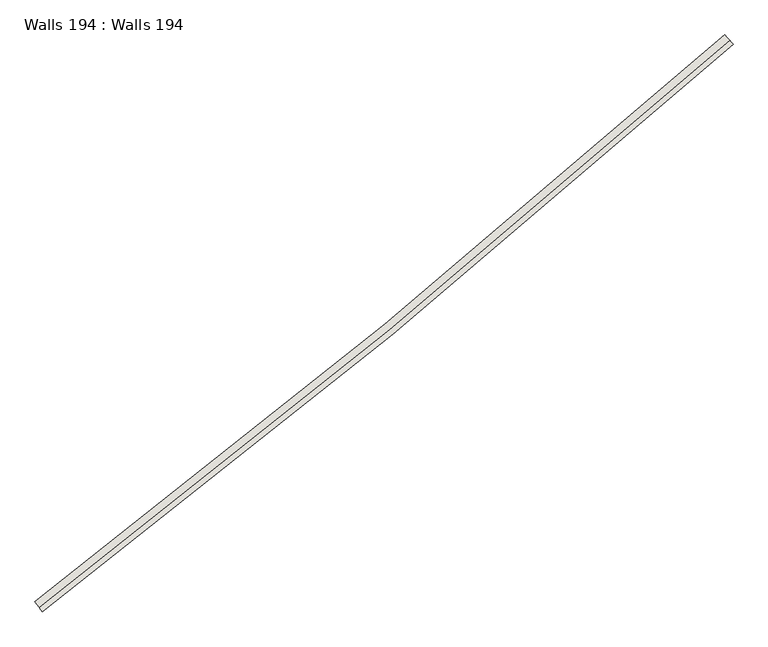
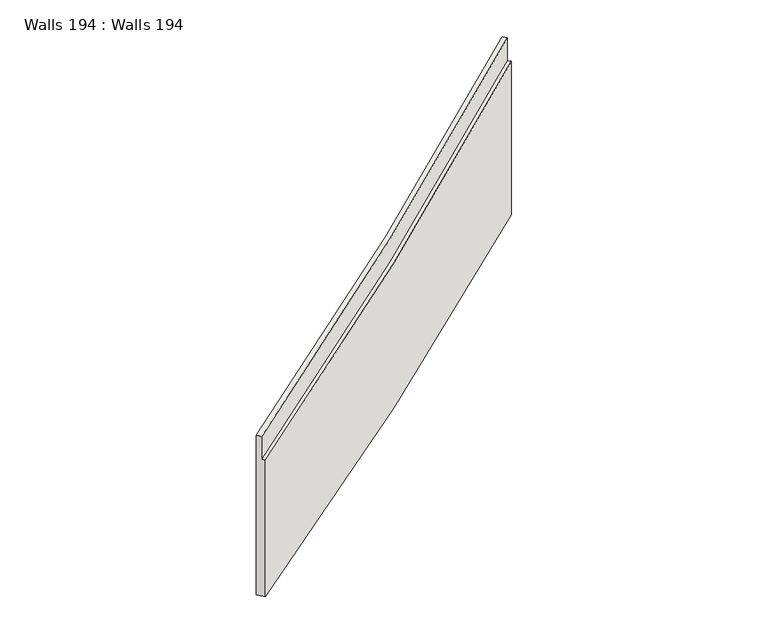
"""IFC4 building model written with IfcOpenShell, lengths in millimetres: wall geometry, Walls 194 : Walls 194."""

from ifc_helpers import new_model, si_unit, frame, origin, place, context, project, spatial, source, transform, mapped, element, save
from ifc_brep_helpers import plane_surface, spline_curve, spline_surface, advanced_brep


def walls_194_walls_194_e6c6337b(model_context):
    return source(origin(), model_context, "Body", "AdvancedBrep", [
        advanced_brep(
        [(341271.6194041, 215062.2272338, 643870.0), (341483.9948573, 214784.0246694, 643870.0), (341483.9948573, 214784.0246694, 649840.0), (341392.9768059, 214903.2543399, 649840.0), (341392.9768059, 214903.2543399, 650840.0), (341271.6194041, 215062.2272338, 650840.0), (360584.7902458, 230928.401766, 644170.0), (360584.7902458, 230928.401766, 651880.0), (360717.1837453, 230778.4952575, 651880.0), (360717.1837453, 230778.4952575, 650880.0), (360816.4788699, 230666.0653761, 650880.0), (360816.4788699, 230666.0653761, 644170.0)],
        [
            (0, 1),
            (1, 2),
            (2, 3),
            (3, 4),
            (4, 5),
            (5, 0),
            (6, 7),
            (7, 8),
            (8, 9),
            (9, 10),
            (10, 11),
            (11, 6),
            (9, 3, spline_curve(3, [(360717.1837453, 230778.4952575, 650880.0), (357592.347513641, 228018.721794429, 650706.666667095), (354418.224424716, 225314.754937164, 650533.333332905), (347975.452650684, 220021.882922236, 650186.666667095), (344706.803963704, 217432.977766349, 650013.333332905), (341392.9768059, 214903.2543399, 649840.0)], [4, 2, 4], [0.0, 41.07702690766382, 82.15405381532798])),
            (2, 10, spline_curve(3, [(341483.9948573, 214784.0246694, 649840.0), (344799.241415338, 217314.831643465, 650013.333332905), (348069.290151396, 219904.845697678, 650186.666667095), (354514.821537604, 225199.984789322, 650533.333332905), (357690.304187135, 227905.109828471, 650706.666667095), (360816.4788699, 230666.0653761, 650880.0)], [4, 2, 4], [0.0, 41.07702690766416, 82.15405381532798])),
            (6, 0, spline_curve(3, [(360584.7902458, 230928.401766, 644170.0), (357461.738614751, 228170.204415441, 644119.999999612), (354289.428275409, 225467.781799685, 644070.000000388), (347850.335981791, 220177.932556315, 643969.999999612), (344583.554027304, 217590.505929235, 643920.000000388), (341271.6194041, 215062.2272338, 643870.0)], [4, 2, 4], [0.0, 41.02408733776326, 82.04817467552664])),
            (5, 7, spline_curve(3, [(341271.6194041, 215062.2272338, 650840.0), (344583.554027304, 217590.505929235, 651013.333332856), (347850.335981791, 220177.932556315, 651186.666667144), (354289.428275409, 225467.781799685, 651533.333332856), (357461.738614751, 228170.204415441, 651706.666667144), (360584.7902458, 230928.401766, 651880.0)], [4, 2, 4], [0.0, 41.024087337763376, 82.04817467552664])),
            (11, 1, spline_curve(3, [(360816.4788699, 230666.0653761, 644170.0), (357690.30418728, 227905.109829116, 644120.000000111), (354514.821536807, 225199.984789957, 644069.999999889), (348069.290152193, 219904.845697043, 643970.000000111), (344799.241415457, 217314.8316439, 643919.999999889), (341483.9948573, 214784.0246694, 643870.0)], [4, 2, 4], [0.0, 41.03281781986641, 82.06563563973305])),
            (8, 4, spline_curve(3, [(360717.1837453, 230778.4952575, 651880.0), (357592.347512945, 228018.721794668, 651706.666666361), (354418.224424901, 225314.754936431, 651533.333333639), (347975.452650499, 220021.882922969, 651186.666666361), (344706.803964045, 217432.977766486, 651013.333333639), (341392.9768059, 214903.2543399, 650840.0)], [4, 2, 4], [0.0, 41.06824677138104, 82.13649354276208])),
        ],
        [
            plane_surface(frame((341382.8636891, 214916.502081, 648183.3333333), z_axis=(-0.7948644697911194, -0.6067870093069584, 0.0), x_axis=(0.0, 0.0, 1.0))),
            plane_surface(frame((360706.1509536, 230790.9874665, 648976.6666667), z_axis=(0.7495325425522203, 0.661967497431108, 0.0), x_axis=(0.661967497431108, -0.7495325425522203, 0.0))),
            spline_surface(3, 3, [[(360816.4788699, 230666.0653761, 650880.0), (357690.304186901, 227905.109828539, 650706.666666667), (354514.821537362, 225199.984789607, 650533.333333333), (348069.290151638, 219904.845697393, 650186.666666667), (344799.241415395, 217314.831644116, 650013.333333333), (341483.9948573, 214784.0246694, 649840.0)], [(360799.929682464, 230684.803689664, 650880.0), (357673.978074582, 227924.045156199, 650706.666666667), (354498.722018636, 225219.113147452, 650533.333333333), (348053.650568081, 219924.351901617, 650186.666666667), (344783.835173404, 217334.522664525, 650013.333333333), (341468.825182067, 214803.896281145, 649840.0)], [(360783.380495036, 230703.542003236, 650880.0), (357657.65196227, 227942.980483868, 650706.666666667), (354482.622499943, 225238.241505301, 650533.333333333), (348038.01098454, 219943.85810583, 650186.666666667), (344768.42893141, 217354.2136849, 650013.333333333), (341453.655506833, 214823.767892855, 649840.0)], [(360750.282120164, 230741.018630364, 650880.0), (357624.999737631, 227980.851139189, 650706.666666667), (354450.42346249, 225276.49822099, 650533.333333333), (348006.731817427, 219982.870514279, 650186.666666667), (344737.616447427, 217393.595725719, 650013.333333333), (341423.316156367, 214863.511116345, 649840.0)], [(360733.732932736, 230759.756943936, 650880.0), (357608.673625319, 227999.786466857, 650706.666666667), (354434.323943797, 225295.626578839, 650533.333333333), (347991.092233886, 220002.376718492, 650186.666666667), (344722.210205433, 217413.286746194, 650013.333333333), (341408.146481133, 214883.382728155, 649840.0)], [(360717.1837453, 230778.4952575, 650880.0), (357592.347513, 228018.721794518, 650706.666666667), (354418.224425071, 225314.754936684, 650533.333333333), (347975.452650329, 220021.882922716, 650186.666666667), (344706.803963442, 217432.977766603, 650013.333333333), (341392.9768059, 214903.2543399, 649840.0)]], [4, 2, 4], [4, 2, 4], [0.0, 0.2460629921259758, 0.4921259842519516], [0.0, 41.07702690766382, 82.15405381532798]),
            spline_surface(3, 3, [[(360584.7902458, 230928.401766, 651880.0), (357461.738614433, 228170.204415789, 651706.666666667), (354289.428275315, 225467.781799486, 651533.333333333), (347850.335981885, 220177.932556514, 651186.666666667), (344583.554027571, 217590.50592982, 651013.333333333), (341271.6194041, 215062.2272338, 650840.0)], [(360584.7902458, 230928.401766, 650595.0), (357461.738614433, 228170.204415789, 650442.222222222), (354289.428275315, 225467.781799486, 650289.444444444), (347850.335981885, 220177.932556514, 649983.888888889), (344583.554027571, 217590.50592982, 649831.111111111), (341271.6194041, 215062.2272338, 649678.333333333)], [(360584.7902458, 230928.401766, 649310.0), (357461.738614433, 228170.204415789, 649177.777777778), (354289.428275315, 225467.781799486, 649045.555555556), (347850.335981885, 220177.932556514, 648781.111111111), (344583.554027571, 217590.50592982, 648648.888888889), (341271.6194041, 215062.2272338, 648516.666666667)], [(360584.7902458, 230928.401766, 646740.0), (357461.738614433, 228170.204415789, 646648.888888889), (354289.428275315, 225467.781799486, 646557.777777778), (347850.335981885, 220177.932556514, 646375.555555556), (344583.554027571, 217590.50592982, 646284.444444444), (341271.6194041, 215062.2272338, 646193.333333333)], [(360584.7902458, 230928.401766, 645455.0), (357461.738614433, 228170.204415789, 645384.444444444), (354289.428275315, 225467.781799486, 645313.888888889), (347850.335981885, 220177.932556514, 645172.777777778), (344583.554027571, 217590.50592982, 645102.222222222), (341271.6194041, 215062.2272338, 645031.666666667)], [(360584.7902458, 230928.401766, 644170.0), (357461.738614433, 228170.204415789, 644120.0), (354289.428275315, 225467.781799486, 644070.0), (347850.335981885, 220177.932556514, 643970.0), (344583.554027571, 217590.50592982, 643920.0), (341271.6194041, 215062.2272338, 643870.0)]], [4, 2, 4], [4, 2, 4], [0.0, 12.040682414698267, 24.081364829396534], [0.0, 41.02408733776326, 82.04817467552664]),
            spline_surface(3, 3, [[(360584.7902458, 230928.401766, 644170.0), (357461.738614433, 228170.204415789, 644120.0), (354289.428275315, 225467.781799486, 644070.0), (347850.335981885, 220177.932556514, 643970.0), (344583.554027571, 217590.50592982, 643920.0), (341271.6194041, 215062.2272338, 643870.0)], [(360623.405016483, 230884.679034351, 644170.0), (357499.832876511, 228126.021984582, 644120.0), (354326.993819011, 225423.148964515, 644070.0), (347886.828343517, 220132.418079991, 643970.0), (344619.501925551, 217544.560215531, 643920.0), (341307.015312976, 215015.860139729, 643870.0)], [(360662.019787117, 230840.956302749, 644170.0), (357537.927138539, 228081.839553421, 644120.0), (354364.559362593, 225378.516129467, 644070.0), (347923.320705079, 220086.903603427, 643970.0), (344655.449823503, 217498.614501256, 643920.0), (341342.411221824, 214969.493045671, 643870.0)], [(360739.249328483, 230753.510839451, 644170.0), (357614.115662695, 227993.474691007, 644120.0), (354439.690449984, 225289.250459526, 644070.0), (347996.305428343, 219995.87465038, 643970.0), (344727.345619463, 217406.72307268, 643920.0), (341413.203039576, 214876.758857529, 643870.0)], [(360777.864099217, 230709.788107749, 644170.0), (357652.209924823, 227949.292259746, 644120.0), (354477.255993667, 225244.617624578, 644070.0), (348032.797790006, 219950.360173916, 643970.0), (344763.293517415, 217360.777358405, 643920.0), (341448.598948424, 214830.391763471, 643870.0)], [(360816.4788699, 230666.0653761, 644170.0), (357690.304186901, 227905.109828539, 644120.0), (354514.821537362, 225199.984789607, 644070.0), (348069.290151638, 219904.845697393, 643970.0), (344799.241415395, 217314.831644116, 643920.0), (341483.9948573, 214784.0246694, 643870.0)]], [4, 2, 4], [4, 2, 4], [0.0, 0.574146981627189, 1.148293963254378], [0.0, 41.03281781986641, 82.06563563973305]),
            spline_surface(3, 3, [[(360816.4788699, 230666.0653761, 644170.0), (357690.304186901, 227905.109828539, 644120.0), (354514.821537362, 225199.984789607, 644070.0), (348069.290151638, 219904.845697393, 643970.0), (344799.241415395, 217314.831644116, 643920.0), (341483.9948573, 214784.0246694, 643870.0)], [(360816.4788699, 230666.0653761, 645288.333333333), (357690.304186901, 227905.109828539, 645217.777777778), (354514.821537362, 225199.984789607, 645147.222222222), (348069.290151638, 219904.845697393, 645006.111111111), (344799.241415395, 217314.831644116, 644935.555555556), (341483.9948573, 214784.0246694, 644865.0)], [(360816.4788699, 230666.0653761, 646406.666666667), (357690.304186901, 227905.109828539, 646315.555555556), (354514.821537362, 225199.984789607, 646224.444444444), (348069.290151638, 219904.845697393, 646042.222222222), (344799.241415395, 217314.831644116, 645951.111111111), (341483.9948573, 214784.0246694, 645860.0)], [(360816.4788699, 230666.0653761, 648643.333333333), (357690.304186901, 227905.109828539, 648511.111111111), (354514.821537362, 225199.984789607, 648378.888888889), (348069.290151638, 219904.845697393, 648114.444444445), (344799.241415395, 217314.831644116, 647982.222222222), (341483.9948573, 214784.0246694, 647850.0)], [(360816.4788699, 230666.0653761, 649761.666666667), (357690.304186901, 227905.109828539, 649608.888888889), (354514.821537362, 225199.984789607, 649456.111111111), (348069.290151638, 219904.845697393, 649150.555555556), (344799.241415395, 217314.831644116, 648997.777777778), (341483.9948573, 214784.0246694, 648845.0)], [(360816.4788699, 230666.0653761, 650880.0), (357690.304186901, 227905.109828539, 650706.666666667), (354514.821537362, 225199.984789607, 650533.333333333), (348069.290151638, 219904.845697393, 650186.666666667), (344799.241415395, 217314.831644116, 650013.333333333), (341483.9948573, 214784.0246694, 649840.0)]], [4, 2, 4], [4, 2, 4], [0.0, 10.400262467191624, 20.800524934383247], [0.0, 41.0650819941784, 82.13016398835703]),
            spline_surface(3, 3, [[(360717.1837453, 230778.4952575, 650880.0), (357592.347513, 228018.721794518, 650706.666666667), (354418.224425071, 225314.754936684, 650533.333333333), (347975.452650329, 220021.882922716, 650186.666666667), (344706.803963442, 217432.977766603, 650013.333333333), (341392.9768059, 214903.2543399, 649840.0)], [(360717.1837453, 230778.4952575, 651046.666666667), (357592.347513, 228018.721794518, 650873.333333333), (354418.224425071, 225314.754936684, 650700.0), (347975.452650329, 220021.882922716, 650353.333333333), (344706.803963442, 217432.977766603, 650180.0), (341392.9768059, 214903.2543399, 650006.666666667)], [(360717.1837453, 230778.4952575, 651213.333333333), (357592.347513, 228018.721794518, 651040.0), (354418.224425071, 225314.754936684, 650866.666666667), (347975.452650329, 220021.882922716, 650520.0), (344706.803963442, 217432.977766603, 650346.666666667), (341392.9768059, 214903.2543399, 650173.333333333)], [(360717.1837453, 230778.4952575, 651546.666666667), (357592.347513, 228018.721794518, 651373.333333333), (354418.224425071, 225314.754936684, 651200.0), (347975.452650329, 220021.882922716, 650853.333333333), (344706.803963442, 217432.977766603, 650680.0), (341392.9768059, 214903.2543399, 650506.666666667)], [(360717.1837453, 230778.4952575, 651713.333333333), (357592.347513, 228018.721794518, 651540.0), (354418.224425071, 225314.754936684, 651366.666666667), (347975.452650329, 220021.882922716, 651020.0), (344706.803963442, 217432.977766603, 650846.666666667), (341392.9768059, 214903.2543399, 650673.333333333)], [(360717.1837453, 230778.4952575, 651880.0), (357592.347513, 228018.721794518, 651706.666666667), (354418.224425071, 225314.754936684, 651533.333333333), (347975.452650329, 220021.882922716, 651186.666666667), (344706.803963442, 217432.977766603, 651013.333333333), (341392.9768059, 214903.2543399, 650840.0)]], [4, 2, 4], [4, 2, 4], [0.0, 1.6404199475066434, 3.280839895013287], [0.0, 41.06824677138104, 82.13649354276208]),
            spline_surface(3, 3, [[(360717.1837453, 230778.4952575, 651880.0), (357592.347513, 228018.721794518, 651706.666666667), (354418.224425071, 225314.754936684, 651533.333333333), (347975.452650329, 220021.882922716, 651186.666666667), (344706.803963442, 217432.977766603, 651013.333333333), (341392.9768059, 214903.2543399, 650840.0)], [(360695.118162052, 230803.479675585, 651880.0), (357570.579363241, 228043.968898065, 651706.666666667), (354396.758400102, 225340.25941381, 651533.333333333), (347954.599872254, 220047.891195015, 651186.666666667), (344686.262307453, 217459.232460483, 651013.333333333), (341372.750572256, 214929.749822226, 650840.0)], [(360673.052578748, 230828.464093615, 651880.0), (357548.811213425, 228069.216001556, 651706.666666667), (354375.292375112, 225365.763890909, 651533.333333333), (347933.747094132, 220073.899467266, 651186.666666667), (344665.720651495, 217485.487154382, 651013.333333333), (341352.524338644, 214956.245304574, 650840.0)], [(360628.921412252, 230878.432929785, 651880.0), (357505.274913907, 228119.710208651, 651706.666666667), (354332.360325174, 225416.772845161, 651533.333333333), (347892.041537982, 220125.916011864, 651186.666666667), (344624.637339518, 217537.996542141, 651013.333333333), (341312.071871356, 215009.236269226, 650840.0)], [(360606.855829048, 230903.417347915, 651880.0), (357483.506764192, 228144.957312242, 651706.666666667), (354310.894300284, 225442.277322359, 651533.333333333), (347871.18875996, 220151.924284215, 651186.666666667), (344604.09568356, 217564.251235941, 651013.333333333), (341291.845637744, 215035.731751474, 650840.0)], [(360584.7902458, 230928.401766, 651880.0), (357461.738614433, 228170.204415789, 651706.666666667), (354289.428275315, 225467.781799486, 651533.333333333), (347850.335981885, 220177.932556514, 651186.666666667), (344583.554027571, 217590.50592982, 651013.333333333), (341271.6194041, 215062.2272338, 650840.0)]], [4, 2, 4], [4, 2, 4], [0.0, 0.328083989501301, 0.656167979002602], [0.0, 41.056539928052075, 82.11307985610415]),
        ],
        [
            (0, [[1, 2, 3, 4, 5, 6]]),
            (1, [[7, 8, 9, 10, 11, 12]]),
            (2, [[-10, 13, -3, 14]]),
            (3, [[-7, 15, -6, 16]]),
            (4, [[-12, 17, -1, -15]]),
            (5, [[-11, -14, -2, -17]]),
            (6, [[-9, 18, -4, -13]]),
            (7, [[-8, -16, -5, -18]]),
        ],
    ),
    ])


if __name__ == "__main__":
    model = new_model("IFC4")
    model_context = context("Model", 3, world=origin())
    ifc_project = project(units=[si_unit("LENGTHUNIT", "METRE", prefix="MILLI")], contexts=[model_context])
    site = spatial("IfcSite", under=ifc_project)
    building = spatial("IfcBuilding", under=site)
    placement = place(None, origin())
    walls_194_walls_194_shape = walls_194_walls_194_e6c6337b(model_context)
    element("IfcWall", 1, ObjectType="Walls 194 : Walls 194", at=placement, inside=building, context=model_context, shape_type="MappedRepresentation", body=[
        mapped(walls_194_walls_194_shape, transform((0.0, 0.0, 0.0), x_axis=(1.0, 0.0, 0.0), y_axis=(0.0, 1.0, 0.0), z_axis=(0.0, 0.0, 1.0))),
    ])
    save(model, "model.ifc")
